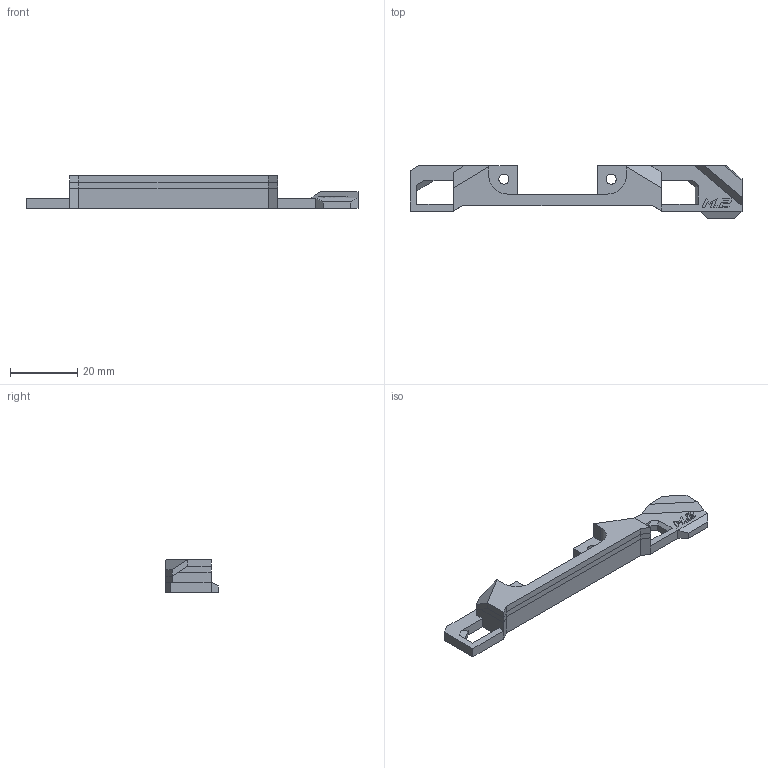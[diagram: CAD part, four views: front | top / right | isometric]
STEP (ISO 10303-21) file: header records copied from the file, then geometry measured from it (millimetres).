
FILE_DESCRIPTION((''),'2;1');
FILE_NAME('M2','2018-09-13T',('Hungpo_Ouyang'),(''),'PRO/ENGINEER BY PARAMETRIC TECHNOLOGY CORPORATION, 2015240','PRO/ENGINEER BY PARAMETRIC TECHNOLOGY CORPORATION, 2015240','');
FILE_SCHEMA(('CONFIG_CONTROL_DESIGN'));
Length unit declared in the file: millimetre
Products named in the file (1): M2
Bounding box: 99 x 15.74 x 9.78 mm (x, y, z)
Volume: 5643.4 mm3; surface area: 3929.4 mm2
Topology: 1 solids, 1 shells, 98 faces, 266 edges, 171 vertices
Faces by surface type: plane 92, cylinder 6
Entity records: 3064 total; most frequent: CARTESIAN_POINT 535, ORIENTED_EDGE 532, DIRECTION 474, EDGE_CURVE 266, VECTOR 254, LINE 254, VERTEX_POINT 171, AXIS2_PLACEMENT_3D 110
